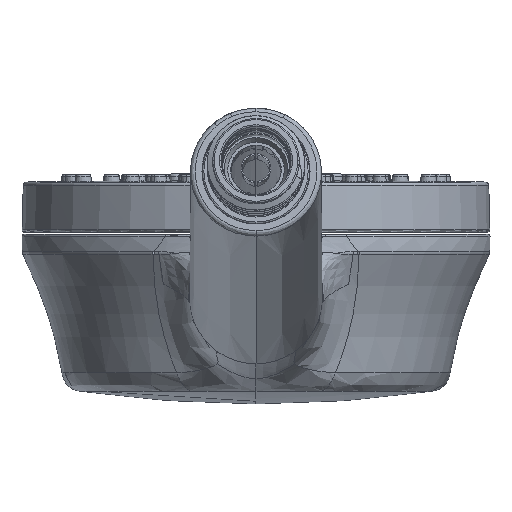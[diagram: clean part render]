
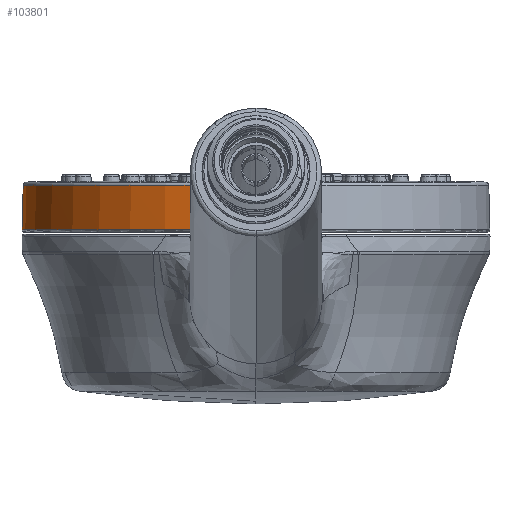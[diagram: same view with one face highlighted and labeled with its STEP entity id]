
A CAD part, front view. The second image highlights one B-rep face of the part: STEP entity #103801.
In plain terms, the highlighted conical face has half-angle 1.5 degrees and reference radius 49.862 mm.
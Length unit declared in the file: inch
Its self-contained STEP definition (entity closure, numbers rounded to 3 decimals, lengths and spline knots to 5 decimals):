
#488 = CIRCLE ( 'NONE', #43769, 1.95817 ) ;
#2880 = AXIS2_PLACEMENT_3D ( 'NONE', #91319, #114994, #153844 ) ;
#5864 = DIRECTION ( 'NONE',  ( -0.026, 0., -1. ) ) ;
#13890 = CARTESIAN_POINT ( 'NONE',  ( -0.12687, -1.75098, 0.4143 ) ) ;
#20132 = CARTESIAN_POINT ( 'NONE',  ( -0.12687, -1.75098, 0.4143 ) ) ;
#25484 = ORIENTED_EDGE ( 'NONE', *, *, #69597, .T. ) ;
#31260 = LINE ( 'NONE', #82859, #57151 ) ;
#33273 = CARTESIAN_POINT ( 'NONE',  ( -0.13136, -1.75774, 0.14529 ) ) ;
#35719 = ORIENTED_EDGE ( 'NONE', *, *, #120965, .F. ) ;
#37937 = VERTEX_POINT ( 'NONE', #143421 ) ;
#40813 = CARTESIAN_POINT ( 'NONE',  ( 0., 0.20308, 0.4143 ) ) ;
#41322 = AXIS2_PLACEMENT_3D ( 'NONE', #41334, #144400, #131738 ) ;
#41334 = CARTESIAN_POINT ( 'NONE',  ( 0., 0.20308, 0.22703 ) ) ;
#43326 = DIRECTION ( 'NONE',  ( 0., 0., -1. ) ) ;
#43769 = AXIS2_PLACEMENT_3D ( 'NONE', #40813, #43326, #55188 ) ;
#48905 = CIRCLE ( 'NONE', #2880, 1.95817 ) ;
#52825 = CARTESIAN_POINT ( 'NONE',  ( -0.12752, -1.75166, 0.38669 ) ) ;
#55188 = DIRECTION ( 'NONE',  ( -0.065, -0.998, 0. ) ) ;
#56235 = ORIENTED_EDGE ( 'NONE', *, *, #115648, .F. ) ;
#57151 = VECTOR ( 'NONE', #5864, 39.37008 ) ;
#57731 = VERTEX_POINT ( 'NONE', #20132 ) ;
#58402 = VERTEX_POINT ( 'NONE', #161552 ) ;
#65937 = AXIS2_PLACEMENT_3D ( 'NONE', #146074, #148564, #147740 ) ;
#68382 = EDGE_CURVE ( 'NONE', #58402, #157779, #31260, .T. ) ;
#69597 = EDGE_CURVE ( 'NONE', #37937, #58402, #488, .T. ) ;
#79061 = CONICAL_SURFACE ( 'NONE', #41322, 1.96307, 0.026 ) ;
#80044 = CARTESIAN_POINT ( 'NONE',  ( -1.96797, 0.20308, 0.03976 ) ) ;
#82018 = ORIENTED_EDGE ( 'NONE', *, *, #92373, .T. ) ;
#82859 = CARTESIAN_POINT ( 'NONE',  ( -1.96307, 0.20308, 0.22703 ) ) ;
#84872 = CARTESIAN_POINT ( 'NONE',  ( -0.132, -1.76047, 0.03976 ) ) ;
#90200 = CIRCLE ( 'NONE', #65937, 1.96797 ) ;
#91319 = CARTESIAN_POINT ( 'NONE',  ( 0., 0.20308, 0.4143 ) ) ;
#92373 = EDGE_CURVE ( 'NONE', #57731, #37937, #48905, .T. ) ;
#103801 = ADVANCED_FACE ( 'NONE', ( #157090 ), #79061, .T. ) ;
#106693 = B_SPLINE_CURVE_WITH_KNOTS ( 'NONE', 3,
 ( #13890, #52825, #155911, #144065, #33273, #122050, #84872 ),
 .UNSPECIFIED., .F., .F.,
 ( 4, 1, 1, 1, 4 ),
 ( 0., 0.25, 0.5, 0.75, 1. ),
 .UNSPECIFIED. ) ;
#113054 = ORIENTED_EDGE ( 'NONE', *, *, #68382, .T. ) ;
#114994 = DIRECTION ( 'NONE',  ( 0., 0., -1. ) ) ;
#115648 = EDGE_CURVE ( 'NONE', #57731, #163756, #106693, .T. ) ;
#120905 = EDGE_LOOP ( 'NONE', ( #82018, #25484, #113054, #35719, #56235 ) ) ;
#120965 = EDGE_CURVE ( 'NONE', #163756, #157779, #90200, .T. ) ;
#122050 = CARTESIAN_POINT ( 'NONE',  ( -0.13185, -1.75953, 0.07581 ) ) ;
#131738 = DIRECTION ( 'NONE',  ( 1., 0., 0. ) ) ;
#143421 = CARTESIAN_POINT ( 'NONE',  ( -1.95817, 0.20157, 0.4143 ) ) ;
#144065 = CARTESIAN_POINT ( 'NONE',  ( -0.13022, -1.75531, 0.24068 ) ) ;
#144400 = DIRECTION ( 'NONE',  ( 0., 0., -1. ) ) ;
#146074 = CARTESIAN_POINT ( 'NONE',  ( 0., 0.20308, 0.03976 ) ) ;
#147740 = DIRECTION ( 'NONE',  ( -0.067, -0.998, 0. ) ) ;
#148564 = DIRECTION ( 'NONE',  ( 0., 0., -1. ) ) ;
#153844 = DIRECTION ( 'NONE',  ( -0.065, -0.998, 0. ) ) ;
#155911 = CARTESIAN_POINT ( 'NONE',  ( -0.12873, -1.75307, 0.3299 ) ) ;
#157090 = FACE_OUTER_BOUND ( 'NONE', #120905, .T. ) ;
#157779 = VERTEX_POINT ( 'NONE', #80044 ) ;
#161552 = CARTESIAN_POINT ( 'NONE',  ( -1.95817, 0.20308, 0.4143 ) ) ;
#163756 = VERTEX_POINT ( 'NONE', #164868 ) ;
#164868 = CARTESIAN_POINT ( 'NONE',  ( -0.132, -1.76047, 0.03976 ) ) ;
